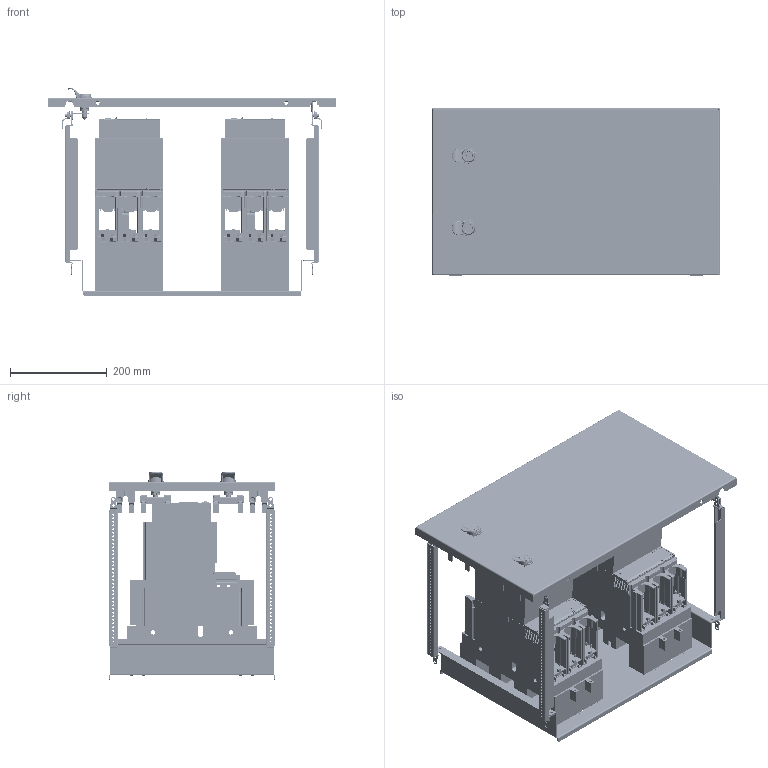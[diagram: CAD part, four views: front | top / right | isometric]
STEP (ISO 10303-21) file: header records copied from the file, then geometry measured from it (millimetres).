
FILE_DESCRIPTION(('CAx-IF Rec.Pracs.---Model Styling and Organization---1.2---2011-12-15','CAx-IF Rec.Pracs.---Geometric and Assembly Validation Properties---4.1---2014-06-16','CAx-IF Rec.Pracs.---PMI Polyline Presentation---2.0---2013-05-24'),'2;1');
FILE_NAME('R5PKEB7V62816 (P-MO).stp','2021-07-29T02:39:21+03:00',(''),(''),'STEP Interface 4.4 by CT CoreTechnologie','3D_Evolution4.4 by CT CoreTechnologie','');
FILE_SCHEMA(('AUTOMOTIVE_DESIGN { 1 0 10303 214 1 1 1 1 }'));
Length unit declared in the file: millimetre
Products named in the file (1): R5PKEB7V62816 (P-MO)
Bounding box: 594 x 345 x 430.24 mm (x, y, z)
Surface area: 3163284.5 mm2 (no closed solid volume)
Topology: 0 solids, 146 shells, 11513 faces, 33660 edges, 22260 vertices
Faces by surface type: plane 6976, cylinder 3514, bspline 1023
Entity records: 400928 total; most frequent: CARTESIAN_POINT 92357, ORIENTED_EDGE 67080, DIRECTION 61868, EDGE_CURVE 33556, VECTOR 24730, LINE 24730, VERTEX_POINT 22302, AXIS2_PLACEMENT_3D 18569
